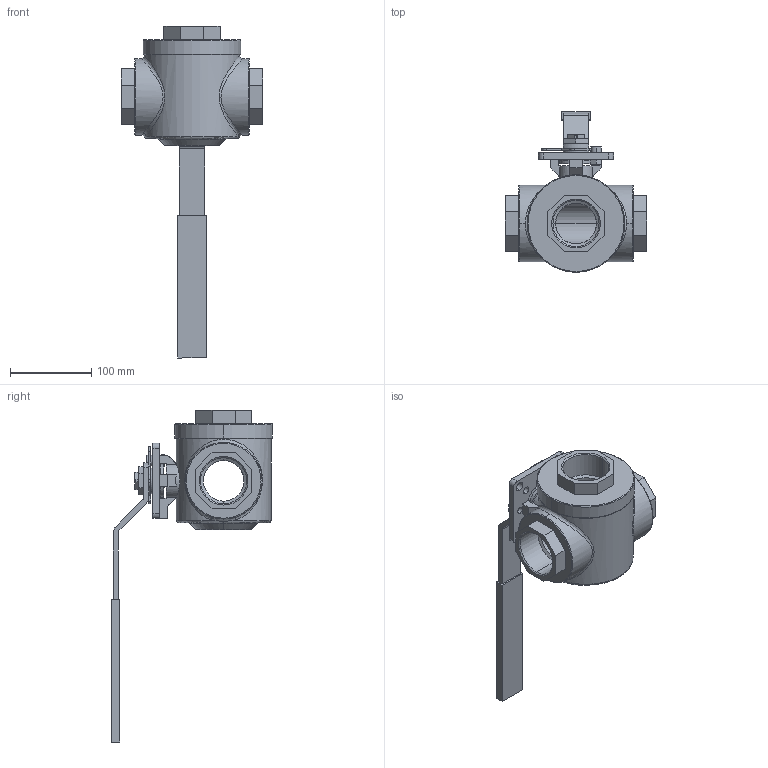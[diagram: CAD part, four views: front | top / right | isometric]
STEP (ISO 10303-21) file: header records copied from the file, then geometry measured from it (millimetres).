
FILE_DESCRIPTION (( 'STEP AP214' ), '1' );
FILE_NAME ('S57D DN50 G2 HB FB.STEP', '2013-04-02T12:22:16', ( 'Jan' ), ( '' ), 'SwSTEP 2.0', 'SolidWorks 2011', '' );
FILE_SCHEMA (( 'AUTOMOTIVE_DESIGN' ));
Length unit declared in the file: millimetre
Products named in the file (5): hex nut style 1 gradeab_din_Hexagon Nut ISO 4032 - M8 - D - N; S57D DN50-G2 FB; S57D DN50 G2 HB FB; S57D Hendel DN50 FB; socket head cap screw_din_DIN 912 M8 x 16 --- 16N
Assembly tree (4 placements, depth 2):
  S57D DN50 G2 HB FB
    socket head cap screw_din_DIN 912 M8 x 16 --- 16N
    S57D DN50-G2 FB
    hex nut style 1 gradeab_din_Hexagon Nut ISO 4032 - M8 - D - N
    S57D Hendel DN50 FB
Bounding box: 174 x 197.78 x 407.98 mm (x, y, z)
Volume: 1460342.1 mm3; surface area: 186568.6 mm2
Topology: 4 solids, 4 shells, 331 faces, 844 edges, 527 vertices
Faces by surface type: plane 186, cylinder 89, cone 34, torus 18, bspline 4
Entity records: 12277 total; most frequent: CARTESIAN_POINT 3761, DIRECTION 1739, ORIENTED_EDGE 1684, EDGE_CURVE 842, AXIS2_PLACEMENT_3D 619, VERTEX_POINT 527, LINE 501, VECTOR 501
